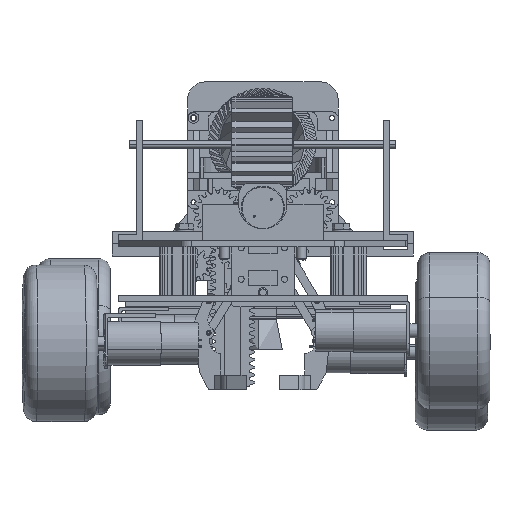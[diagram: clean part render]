
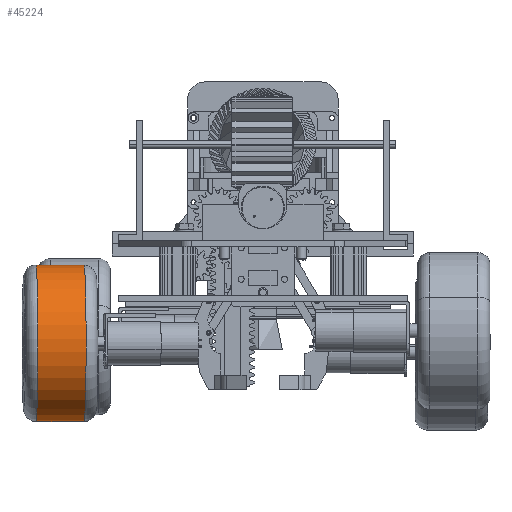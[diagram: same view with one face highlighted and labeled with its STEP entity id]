
A CAD part, front view. The second image highlights one B-rep face of the part: STEP entity #45224.
In plain terms, the highlighted cylindrical face has radius 65 mm (diameter 130 mm), a partial arc.
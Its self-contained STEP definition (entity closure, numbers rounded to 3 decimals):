
#289 = EDGE_CURVE ( 'NONE', #71121, #19541, #78444, .T. ) ;
#2832 = AXIS2_PLACEMENT_3D ( 'NONE', #66830, #83534, #55724 ) ;
#4950 = VERTEX_POINT ( 'NONE', #61396 ) ;
#5869 = CYLINDRICAL_SURFACE ( 'NONE', #2832, 65. ) ;
#5900 = DIRECTION ( 'NONE',  ( 1., 0., 0. ) ) ;
#8269 = CARTESIAN_POINT ( 'NONE',  ( 0., 0., 20. ) ) ;
#12073 = ORIENTED_EDGE ( 'NONE', *, *, #289, .T. ) ;
#15768 = EDGE_LOOP ( 'NONE', ( #113435, #12073, #60441, #95022 ) ) ;
#19541 = VERTEX_POINT ( 'NONE', #62289 ) ;
#22639 = EDGE_CURVE ( 'NONE', #19541, #4950, #80494, .T. ) ;
#35589 = CARTESIAN_POINT ( 'NONE',  ( 65., 0., -20. ) ) ;
#36646 = DIRECTION ( 'NONE',  ( 1., 0., 0. ) ) ;
#40005 = CARTESIAN_POINT ( 'NONE',  ( 65., 0., 30. ) ) ;
#45224 = ADVANCED_FACE ( 'NONE', ( #70574 ), #5869, .T. ) ;
#46889 = AXIS2_PLACEMENT_3D ( 'NONE', #90413, #116925, #5900 ) ;
#55724 = DIRECTION ( 'NONE',  ( -1., 0., 0. ) ) ;
#60441 = ORIENTED_EDGE ( 'NONE', *, *, #22639, .T. ) ;
#61396 = CARTESIAN_POINT ( 'NONE',  ( -65., 0., -20. ) ) ;
#61959 = DIRECTION ( 'NONE',  ( 0., 0., -1. ) ) ;
#62289 = CARTESIAN_POINT ( 'NONE',  ( -65., 0., 20. ) ) ;
#63590 = VECTOR ( 'NONE', #77635, 1000. ) ;
#66830 = CARTESIAN_POINT ( 'NONE',  ( 0., 0., 30. ) ) ;
#70574 = FACE_OUTER_BOUND ( 'NONE', #15768, .T. ) ;
#70852 = EDGE_CURVE ( 'NONE', #71121, #75359, #88145, .T. ) ;
#71121 = VERTEX_POINT ( 'NONE', #102067 ) ;
#72475 = CIRCLE ( 'NONE', #46889, 65. ) ;
#75359 = VERTEX_POINT ( 'NONE', #35589 ) ;
#77635 = DIRECTION ( 'NONE',  ( 0., 0., -1. ) ) ;
#78444 = CIRCLE ( 'NONE', #94264, 65. ) ;
#80494 = LINE ( 'NONE', #109498, #116961 ) ;
#83526 = DIRECTION ( 'NONE',  ( 0., 0., -1. ) ) ;
#83534 = DIRECTION ( 'NONE',  ( 0., 0., -1. ) ) ;
#88145 = LINE ( 'NONE', #40005, #63590 ) ;
#90413 = CARTESIAN_POINT ( 'NONE',  ( 0., 0., -20. ) ) ;
#92678 = EDGE_CURVE ( 'NONE', #4950, #75359, #72475, .T. ) ;
#94264 = AXIS2_PLACEMENT_3D ( 'NONE', #8269, #83526, #36646 ) ;
#95022 = ORIENTED_EDGE ( 'NONE', *, *, #92678, .T. ) ;
#102067 = CARTESIAN_POINT ( 'NONE',  ( 65., 0., 20. ) ) ;
#109498 = CARTESIAN_POINT ( 'NONE',  ( -65., 0., 30. ) ) ;
#113435 = ORIENTED_EDGE ( 'NONE', *, *, #70852, .F. ) ;
#116925 = DIRECTION ( 'NONE',  ( 0., 0., 1. ) ) ;
#116961 = VECTOR ( 'NONE', #61959, 1000. ) ;
